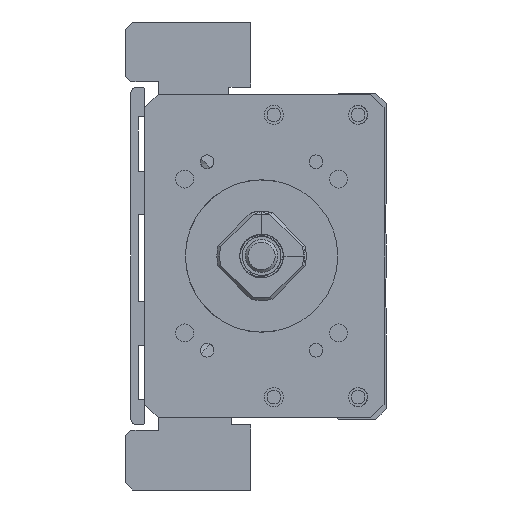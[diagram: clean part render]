
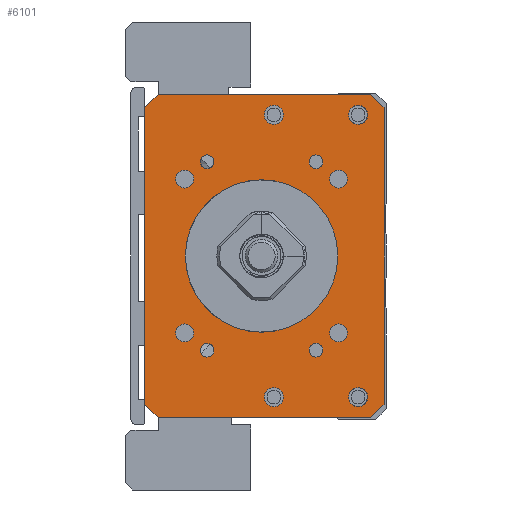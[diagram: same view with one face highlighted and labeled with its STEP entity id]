
A CAD part, left-side view. The second image highlights one B-rep face of the part: STEP entity #6101.
In plain terms, the highlighted planar face has unit normal (-1, 0, 0).
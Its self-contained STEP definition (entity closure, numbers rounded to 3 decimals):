
#4856=FACE_BOUND('',#7953,.T.);
#4857=FACE_BOUND('',#7954,.T.);
#4858=FACE_BOUND('',#7955,.T.);
#4859=FACE_BOUND('',#7956,.T.);
#4860=FACE_BOUND('',#7957,.T.);
#4861=FACE_BOUND('',#7958,.T.);
#4862=FACE_BOUND('',#7959,.T.);
#4863=FACE_BOUND('',#7960,.T.);
#4864=FACE_BOUND('',#7961,.T.);
#4865=FACE_BOUND('',#7962,.T.);
#4866=FACE_BOUND('',#7963,.T.);
#4867=FACE_BOUND('',#7964,.T.);
#4868=FACE_BOUND('',#7965,.T.);
#4869=FACE_BOUND('',#7966,.T.);
#5445=CIRCLE('',#17049,14.);
#5454=CIRCLE('',#17060,1.65);
#5455=CIRCLE('',#17061,1.65);
#5456=CIRCLE('',#17062,1.65);
#5457=CIRCLE('',#17063,1.65);
#5458=CIRCLE('',#17064,1.25);
#5459=CIRCLE('',#17065,1.75);
#5460=CIRCLE('',#17066,1.25);
#5461=CIRCLE('',#17067,1.75);
#5462=CIRCLE('',#17068,1.25);
#5463=CIRCLE('',#17069,1.75);
#5464=CIRCLE('',#17070,1.75);
#5465=CIRCLE('',#17071,1.25);
#6101=ADVANCED_FACE('',(#4856,#4857,#4858,#4859,#4860,#4861,#4862,#4863,
#4864,#4865,#4866,#4867,#4868,#4869),#6691,.F.);
#6691=PLANE('',#17072);
#7953=EDGE_LOOP('',(#10407));
#7954=EDGE_LOOP('',(#10408));
#7955=EDGE_LOOP('',(#10409));
#7956=EDGE_LOOP('',(#10410));
#7957=EDGE_LOOP('',(#10411));
#7958=EDGE_LOOP('',(#10412));
#7959=EDGE_LOOP('',(#10413));
#7960=EDGE_LOOP('',(#10414));
#7961=EDGE_LOOP('',(#10415));
#7962=EDGE_LOOP('',(#10416,#10417,#10418,#10419,#10420,#10421,#10422,#10423));
#7963=EDGE_LOOP('',(#10424));
#7964=EDGE_LOOP('',(#10425));
#7965=EDGE_LOOP('',(#10426));
#7966=EDGE_LOOP('',(#10427));
#10407=ORIENTED_EDGE('',*,*,#13794,.F.);
#10408=ORIENTED_EDGE('',*,*,#13795,.F.);
#10409=ORIENTED_EDGE('',*,*,#13796,.F.);
#10410=ORIENTED_EDGE('',*,*,#13797,.F.);
#10411=ORIENTED_EDGE('',*,*,#13798,.F.);
#10412=ORIENTED_EDGE('',*,*,#13799,.T.);
#10413=ORIENTED_EDGE('',*,*,#13800,.F.);
#10414=ORIENTED_EDGE('',*,*,#13801,.F.);
#10415=ORIENTED_EDGE('',*,*,#13802,.F.);
#10416=ORIENTED_EDGE('',*,*,#13791,.T.);
#10417=ORIENTED_EDGE('',*,*,#13803,.T.);
#10418=ORIENTED_EDGE('',*,*,#13804,.F.);
#10419=ORIENTED_EDGE('',*,*,#13805,.T.);
#10420=ORIENTED_EDGE('',*,*,#13806,.F.);
#10421=ORIENTED_EDGE('',*,*,#13807,.T.);
#10422=ORIENTED_EDGE('',*,*,#13808,.T.);
#10423=ORIENTED_EDGE('',*,*,#13809,.T.);
#10424=ORIENTED_EDGE('',*,*,#13810,.F.);
#10425=ORIENTED_EDGE('',*,*,#13811,.F.);
#10426=ORIENTED_EDGE('',*,*,#13812,.F.);
#10427=ORIENTED_EDGE('',*,*,#13771,.F.);
#12345=VERTEX_POINT('',#23748);
#12365=VERTEX_POINT('',#23808);
#12366=VERTEX_POINT('',#23810);
#12368=VERTEX_POINT('',#23816);
#12369=VERTEX_POINT('',#23818);
#12370=VERTEX_POINT('',#23820);
#12371=VERTEX_POINT('',#23822);
#12372=VERTEX_POINT('',#23824);
#12373=VERTEX_POINT('',#23826);
#12374=VERTEX_POINT('',#23828);
#12375=VERTEX_POINT('',#23830);
#12376=VERTEX_POINT('',#23832);
#12377=VERTEX_POINT('',#23834);
#12378=VERTEX_POINT('',#23836);
#12379=VERTEX_POINT('',#23838);
#12380=VERTEX_POINT('',#23840);
#12381=VERTEX_POINT('',#23842);
#12382=VERTEX_POINT('',#23844);
#12383=VERTEX_POINT('',#23847);
#12384=VERTEX_POINT('',#23849);
#12385=VERTEX_POINT('',#23851);
#13771=EDGE_CURVE('',#12345,#12345,#5445,.T.);
#13791=EDGE_CURVE('',#12366,#12365,#15105,.T.);
#13794=EDGE_CURVE('',#12368,#12368,#5454,.T.);
#13795=EDGE_CURVE('',#12369,#12369,#5455,.T.);
#13796=EDGE_CURVE('',#12370,#12370,#5456,.T.);
#13797=EDGE_CURVE('',#12371,#12371,#5457,.T.);
#13798=EDGE_CURVE('',#12372,#12372,#5458,.T.);
#13799=EDGE_CURVE('',#12373,#12373,#5459,.T.);
#13800=EDGE_CURVE('',#12374,#12374,#5460,.T.);
#13801=EDGE_CURVE('',#12375,#12375,#5461,.T.);
#13802=EDGE_CURVE('',#12376,#12376,#5462,.T.);
#13803=EDGE_CURVE('',#12365,#12377,#15107,.T.);
#13804=EDGE_CURVE('',#12378,#12377,#15108,.T.);
#13805=EDGE_CURVE('',#12378,#12379,#15109,.T.);
#13806=EDGE_CURVE('',#12380,#12379,#15110,.T.);
#13807=EDGE_CURVE('',#12380,#12381,#15111,.T.);
#13808=EDGE_CURVE('',#12381,#12382,#15112,.T.);
#13809=EDGE_CURVE('',#12382,#12366,#15113,.T.);
#13810=EDGE_CURVE('',#12383,#12383,#5463,.T.);
#13811=EDGE_CURVE('',#12384,#12384,#5464,.T.);
#13812=EDGE_CURVE('',#12385,#12385,#5465,.T.);
#15105=LINE('',#23809,#16082);
#15107=LINE('',#23833,#16084);
#15108=LINE('',#23835,#16085);
#15109=LINE('',#23837,#16086);
#15110=LINE('',#23839,#16087);
#15111=LINE('',#23841,#16088);
#15112=LINE('',#23843,#16089);
#15113=LINE('',#23845,#16090);
#16082=VECTOR('',#19678,1.);
#16084=VECTOR('',#19702,1.);
#16085=VECTOR('',#19703,1.);
#16086=VECTOR('',#19704,1.);
#16087=VECTOR('',#19705,1.);
#16088=VECTOR('',#19706,1.);
#16089=VECTOR('',#19707,1.);
#16090=VECTOR('',#19708,1.);
#17049=AXIS2_PLACEMENT_3D('',#23747,#19652,#19653);
#17060=AXIS2_PLACEMENT_3D('',#23815,#19684,#19685);
#17061=AXIS2_PLACEMENT_3D('',#23817,#19686,#19687);
#17062=AXIS2_PLACEMENT_3D('',#23819,#19688,#19689);
#17063=AXIS2_PLACEMENT_3D('',#23821,#19690,#19691);
#17064=AXIS2_PLACEMENT_3D('',#23823,#19692,#19693);
#17065=AXIS2_PLACEMENT_3D('',#23825,#19694,#19695);
#17066=AXIS2_PLACEMENT_3D('',#23827,#19696,#19697);
#17067=AXIS2_PLACEMENT_3D('',#23829,#19698,#19699);
#17068=AXIS2_PLACEMENT_3D('',#23831,#19700,#19701);
#17069=AXIS2_PLACEMENT_3D('',#23846,#19709,#19710);
#17070=AXIS2_PLACEMENT_3D('',#23848,#19711,#19712);
#17071=AXIS2_PLACEMENT_3D('',#23850,#19713,#19714);
#17072=AXIS2_PLACEMENT_3D('',#23852,#19715,#19716);
#19652=DIRECTION('',(-1.,0.,0.));
#19653=DIRECTION('',(0.,1.,0.));
#19678=DIRECTION('',(0.,0.,-1.));
#19684=DIRECTION('',(-1.,0.,0.));
#19685=DIRECTION('',(0.,0.,1.));
#19686=DIRECTION('',(-1.,0.,0.));
#19687=DIRECTION('',(0.,0.,1.));
#19688=DIRECTION('',(-1.,0.,0.));
#19689=DIRECTION('',(0.,0.,1.));
#19690=DIRECTION('',(-1.,0.,0.));
#19691=DIRECTION('',(0.,0.,1.));
#19692=DIRECTION('',(-1.,0.,0.));
#19693=DIRECTION('',(0.,1.,0.));
#19694=DIRECTION('',(1.,0.,0.));
#19695=DIRECTION('',(0.,0.,1.));
#19696=DIRECTION('',(-1.,0.,0.));
#19697=DIRECTION('',(0.,1.,0.));
#19698=DIRECTION('',(-1.,0.,0.));
#19699=DIRECTION('',(0.,0.,1.));
#19700=DIRECTION('',(-1.,0.,0.));
#19701=DIRECTION('',(0.,1.,0.));
#19702=DIRECTION('',(0.,-0.707,-0.707));
#19703=DIRECTION('',(0.,1.,0.));
#19704=DIRECTION('',(0.,-0.707,0.707));
#19705=DIRECTION('',(0.,0.,-1.));
#19706=DIRECTION('',(0.,0.707,0.707));
#19707=DIRECTION('',(0.,1.,0.));
#19708=DIRECTION('',(0.,0.707,-0.707));
#19709=DIRECTION('',(-1.,0.,0.));
#19710=DIRECTION('',(0.,0.,1.));
#19711=DIRECTION('',(-1.,0.,0.));
#19712=DIRECTION('',(0.,0.,1.));
#19713=DIRECTION('',(-1.,0.,0.));
#19714=DIRECTION('',(0.,1.,0.));
#19715=DIRECTION('',(1.,0.,0.));
#19716=DIRECTION('',(0.,1.,0.));
#23747=CARTESIAN_POINT('',(-211.,0.,-200.));
#23748=CARTESIAN_POINT('',(-211.,14.,-200.));
#23808=CARTESIAN_POINT('',(-211.,21.499,-227.25));
#23809=CARTESIAN_POINT('',(-211.,21.499,-170.25));
#23810=CARTESIAN_POINT('',(-211.,21.499,-172.75));
#23815=CARTESIAN_POINT('',(-211.,14.142,-185.858));
#23816=CARTESIAN_POINT('',(-211.,14.142,-184.208));
#23817=CARTESIAN_POINT('',(-211.,-14.142,-185.858));
#23818=CARTESIAN_POINT('',(-211.,-14.142,-184.208));
#23819=CARTESIAN_POINT('',(-211.,14.142,-214.142));
#23820=CARTESIAN_POINT('',(-211.,14.142,-212.492));
#23821=CARTESIAN_POINT('',(-211.,-14.142,-214.142));
#23822=CARTESIAN_POINT('',(-211.,-14.142,-212.492));
#23823=CARTESIAN_POINT('',(-211.,-10.,-217.321));
#23824=CARTESIAN_POINT('',(-211.,-8.75,-217.321));
#23825=CARTESIAN_POINT('',(-211.,-2.25,-225.936));
#23826=CARTESIAN_POINT('',(-211.,-2.25,-224.186));
#23827=CARTESIAN_POINT('',(-211.,10.,-182.679));
#23828=CARTESIAN_POINT('',(-211.,11.25,-182.679));
#23829=CARTESIAN_POINT('',(-211.,-2.25,-174.064));
#23830=CARTESIAN_POINT('',(-211.,-2.25,-172.314));
#23831=CARTESIAN_POINT('',(-211.,10.,-217.321));
#23832=CARTESIAN_POINT('',(-211.,11.25,-217.321));
#23833=CARTESIAN_POINT('',(-211.,18.999,-229.75));
#23834=CARTESIAN_POINT('',(-211.,18.999,-229.75));
#23835=CARTESIAN_POINT('',(-211.,-22.501,-229.75));
#23836=CARTESIAN_POINT('',(-211.,-20.001,-229.75));
#23837=CARTESIAN_POINT('',(-211.,-22.501,-227.25));
#23838=CARTESIAN_POINT('',(-211.,-22.501,-227.25));
#23839=CARTESIAN_POINT('',(-211.,-22.501,-170.25));
#23840=CARTESIAN_POINT('',(-211.,-22.501,-172.75));
#23841=CARTESIAN_POINT('',(-211.,-22.501,-172.75));
#23842=CARTESIAN_POINT('',(-211.,-20.001,-170.25));
#23843=CARTESIAN_POINT('',(-211.,-22.501,-170.25));
#23844=CARTESIAN_POINT('',(-211.,18.999,-170.25));
#23845=CARTESIAN_POINT('',(-211.,18.999,-170.25));
#23846=CARTESIAN_POINT('',(-211.,-17.75,-174.064));
#23847=CARTESIAN_POINT('',(-211.,-17.75,-172.314));
#23848=CARTESIAN_POINT('',(-211.,-17.75,-225.936));
#23849=CARTESIAN_POINT('',(-211.,-17.75,-224.186));
#23850=CARTESIAN_POINT('',(-211.,-10.,-182.679));
#23851=CARTESIAN_POINT('',(-211.,-8.75,-182.679));
#23852=CARTESIAN_POINT('',(-211.,-22.501,-170.25));
